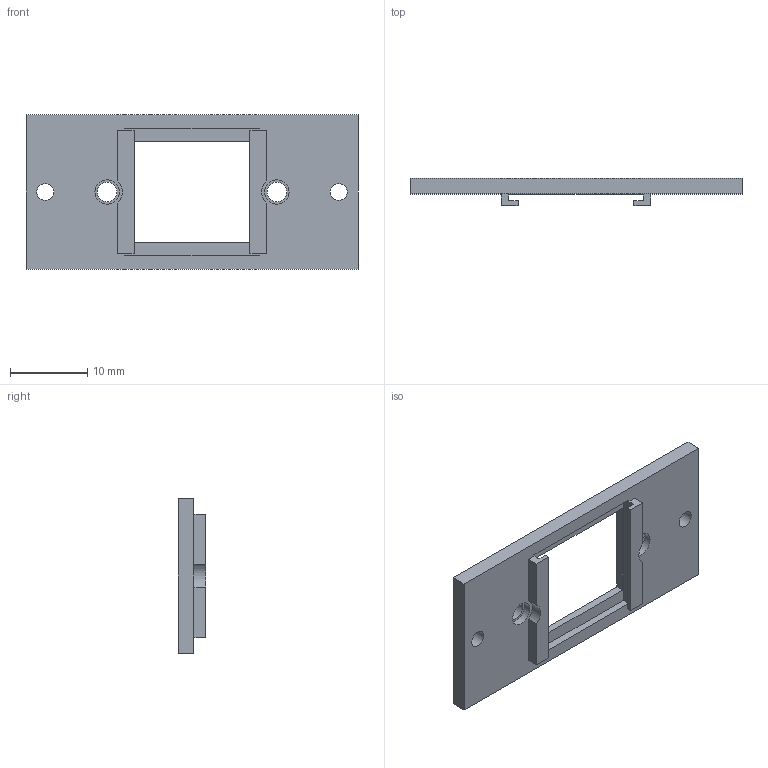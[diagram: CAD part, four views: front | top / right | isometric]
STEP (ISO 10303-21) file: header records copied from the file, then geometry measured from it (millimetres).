
FILE_DESCRIPTION(('Open CASCADE Model'),'2;1');
FILE_NAME('PLAY_REAR_BRIDGE','2026-09-06T11:49:22',('Author'),( 'Open CASCADE'),'Open CASCADE STEP processor 7.8','build123d', 'Unknown');
FILE_SCHEMA(('AUTOMOTIVE_DESIGN { 1 0 10303 214 1 1 1 1 }'));
Length unit declared in the file: millimetre
Products named in the file (1): PLAY_REAR_BRIDGE
Bounding box: 43 x 3.5 x 20 mm (x, y, z)
Volume: 1239.5 mm3; surface area: 1868.2 mm2
Topology: 1 solids, 1 shells, 39 faces, 102 edges, 68 vertices
Faces by surface type: plane 31, cylinder 8
Full cylindrical faces by diameter (mm): 2.2 x2, 2.55 x2, 3.14 x2
Entity records: 2573 total; most frequent: CARTESIAN_POINT 488, DIRECTION 383, LINE 266, VECTOR 266, ORIENTED_EDGE 204, PCURVE 204, DEFINITIONAL_REPRESENTATION 204, EDGE_CURVE 102
